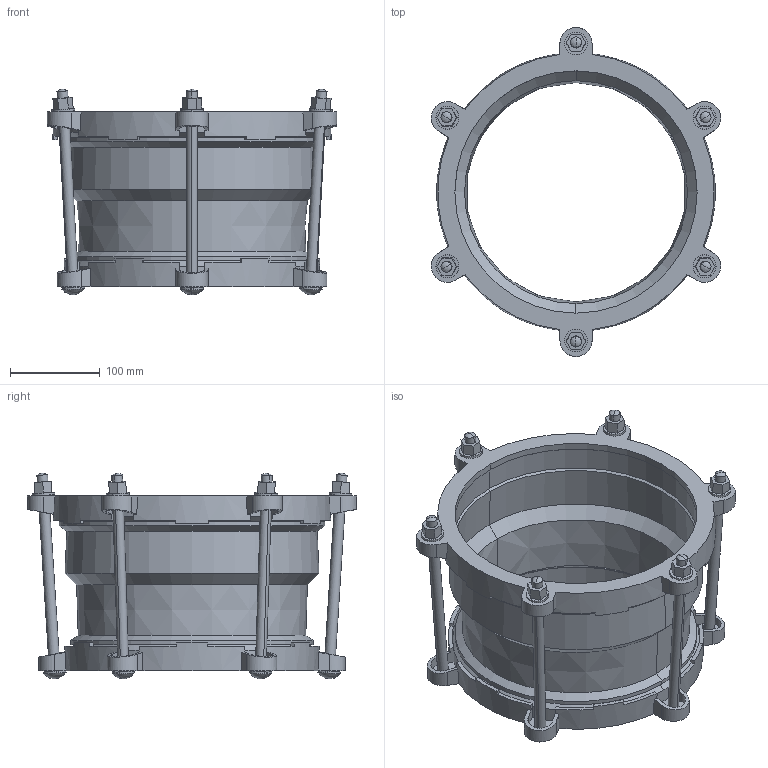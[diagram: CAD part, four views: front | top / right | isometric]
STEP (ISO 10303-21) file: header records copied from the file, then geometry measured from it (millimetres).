
FILE_DESCRIPTION((''),'2;1');
FILE_NAME('BIM_12395_9','2018-10-09T',('MReader'),(''),'CREO PARAMETRIC BY PTC INC, 2016130','CREO PARAMETRIC BY PTC INC, 2016130','');
FILE_SCHEMA(('CONFIG_CONTROL_DESIGN'));
Length unit declared in the file: millimetre
Products named in the file (1): BIM_12395_9
Bounding box: 323.09 x 367.5 x 229.53 mm (x, y, z)
Volume: 1759775.5 mm3; surface area: 552908.4 mm2
Topology: 2 solids, 2 shells, 400 faces, 1052 edges, 664 vertices
Faces by surface type: plane 180, cylinder 120, cone 76, sphere 24
Entity records: 13051 total; most frequent: CARTESIAN_POINT 3367, ORIENTED_EDGE 2056, DIRECTION 1952, EDGE_CURVE 1028, AXIS2_PLACEMENT_3D 740, VERTEX_POINT 664, VECTOR 472, LINE 472
